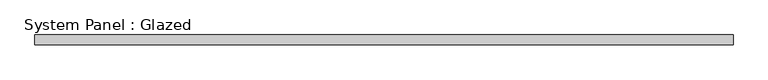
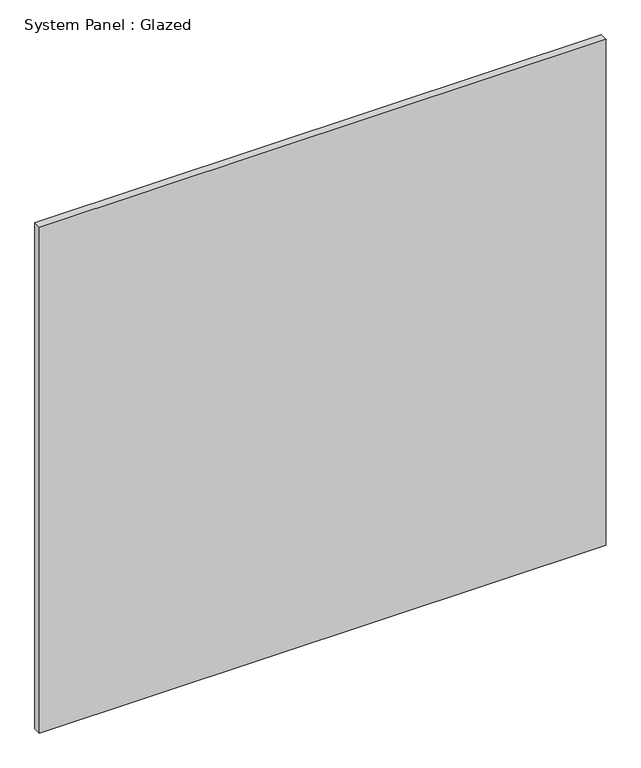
"""IFC4 building model written with IfcOpenShell, lengths in millimetres: plate geometry, System Panel : Glazed."""

from ifc_helpers import new_model, si_unit, origin, origin_with_axes, place, context, project, spatial, polyline, outline, extrude, source, transform, mapped, element, save


def system_panel_glazed_ed711000(model_context):
    return source(origin(), model_context, "Body", "SweptSolid", [
        extrude(outline(polyline([(914.4, -44.45), (-914.4, -44.45), (-914.4, -19.05), (914.4, -19.05), (914.4, -44.45)])), origin_with_axes(), (0.0, 0.0, 1.0), 1727.2),
    ])


if __name__ == "__main__":
    model = new_model("IFC4")
    model_context = context("Model", 3, world=origin())
    ifc_project = project(units=[si_unit("LENGTHUNIT", "METRE", prefix="MILLI")], contexts=[model_context])
    site = spatial("IfcSite", under=ifc_project)
    building = spatial("IfcBuilding", under=site)
    placement = place(None, origin())
    system_panel_glazed_shape = system_panel_glazed_ed711000(model_context)
    element("IfcPlate", 1, ObjectType="System Panel : Glazed", at=placement, inside=building, context=model_context, shape_type="MappedRepresentation", body=[
        mapped(system_panel_glazed_shape, transform((0.0, 0.0, 0.0), x_axis=(1.0, 0.0, 0.0), y_axis=(0.0, 1.0, 0.0), z_axis=(0.0, 0.0, 1.0))),
    ])
    save(model, "model.ifc")
